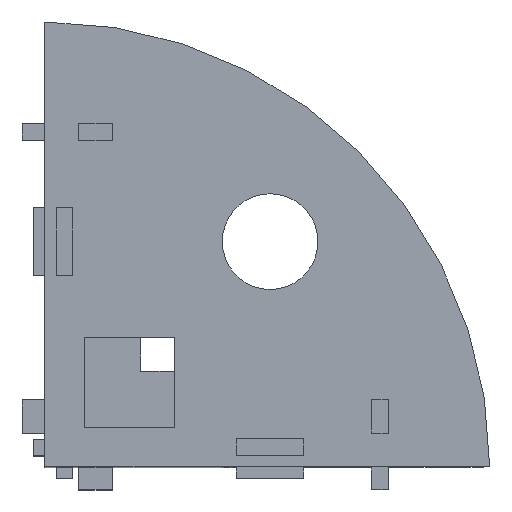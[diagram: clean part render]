
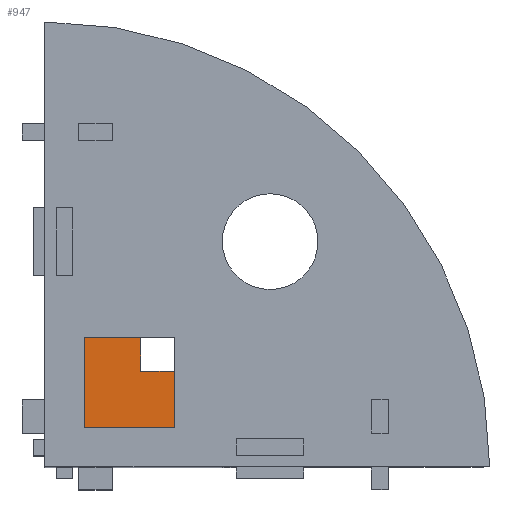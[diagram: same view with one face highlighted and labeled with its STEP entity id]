
A CAD part, top view. The second image highlights one B-rep face of the part: STEP entity #947.
In plain terms, the highlighted planar face has unit normal (0, 0, 1).
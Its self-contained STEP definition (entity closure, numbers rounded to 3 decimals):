
#7 = PLANE ( 'NONE',  #230 ) ;
#45 = ORIENTED_EDGE ( 'NONE', *, *, #2198, .T. ) ;
#101 = LINE ( 'NONE', #2562, #515 ) ;
#213 = CARTESIAN_POINT ( 'NONE',  ( 11.5, 8.5, -11.5 ) ) ;
#230 = AXIS2_PLACEMENT_3D ( 'NONE', #1674, #1392, #1099 ) ;
#242 = VERTEX_POINT ( 'NONE', #213 ) ;
#247 = VERTEX_POINT ( 'NONE', #2672 ) ;
#271 = DIRECTION ( 'NONE',  ( -1., 0., 0. ) ) ;
#278 = EDGE_CURVE ( 'NONE', #242, #247, #1217, .T. ) ;
#471 = VERTEX_POINT ( 'NONE', #667 ) ;
#515 = VECTOR ( 'NONE', #2293, 1000. ) ;
#559 = CARTESIAN_POINT ( 'NONE',  ( 3.5, 11.5, -11.5 ) ) ;
#575 = DIRECTION ( 'NONE',  ( 1., 0., 0. ) ) ;
#601 = CARTESIAN_POINT ( 'NONE',  ( 11.5, 3.5, -11.5 ) ) ;
#613 = EDGE_LOOP ( 'NONE', ( #1748, #2201, #1172, #756, #2185, #45 ) ) ;
#646 = VECTOR ( 'NONE', #1708, 1000. ) ;
#667 = CARTESIAN_POINT ( 'NONE',  ( 8.5, 11.5, -11.5 ) ) ;
#756 = ORIENTED_EDGE ( 'NONE', *, *, #1002, .T. ) ;
#830 = LINE ( 'NONE', #559, #2236 ) ;
#847 = CARTESIAN_POINT ( 'NONE',  ( 3.5, 3.5, -11.5 ) ) ;
#871 = CARTESIAN_POINT ( 'NONE',  ( 3.5, 3.5, -11.5 ) ) ;
#947 = ADVANCED_FACE ( 'NONE', ( #1771 ), #7, .T. ) ;
#1002 = EDGE_CURVE ( 'NONE', #2694, #2132, #2573, .T. ) ;
#1099 = DIRECTION ( 'NONE',  ( 1., 0., 0. ) ) ;
#1109 = EDGE_CURVE ( 'NONE', #471, #2694, #830, .T. ) ;
#1156 = EDGE_CURVE ( 'NONE', #2132, #2137, #1427, .T. ) ;
#1172 = ORIENTED_EDGE ( 'NONE', *, *, #1109, .T. ) ;
#1217 = LINE ( 'NONE', #1978, #646 ) ;
#1234 = VECTOR ( 'NONE', #2024, 1000. ) ;
#1392 = DIRECTION ( 'NONE',  ( 0., 0., 1. ) ) ;
#1399 = VECTOR ( 'NONE', #1774, 1000. ) ;
#1427 = LINE ( 'NONE', #847, #2340 ) ;
#1674 = CARTESIAN_POINT ( 'NONE',  ( 3.5, 3.5, -11.5 ) ) ;
#1708 = DIRECTION ( 'NONE',  ( -1., 0., 0. ) ) ;
#1748 = ORIENTED_EDGE ( 'NONE', *, *, #278, .T. ) ;
#1771 = FACE_OUTER_BOUND ( 'NONE', #613, .T. ) ;
#1774 = DIRECTION ( 'NONE',  ( 0., 1., 0. ) ) ;
#1978 = CARTESIAN_POINT ( 'NONE',  ( 8.5, 8.5, -11.5 ) ) ;
#2024 = DIRECTION ( 'NONE',  ( 0., -1., 0. ) ) ;
#2055 = CARTESIAN_POINT ( 'NONE',  ( 8.5, 38.651, -11.5 ) ) ;
#2132 = VERTEX_POINT ( 'NONE', #871 ) ;
#2137 = VERTEX_POINT ( 'NONE', #601 ) ;
#2185 = ORIENTED_EDGE ( 'NONE', *, *, #1156, .T. ) ;
#2198 = EDGE_CURVE ( 'NONE', #2137, #242, #101, .T. ) ;
#2201 = ORIENTED_EDGE ( 'NONE', *, *, #2461, .T. ) ;
#2236 = VECTOR ( 'NONE', #271, 1000. ) ;
#2293 = DIRECTION ( 'NONE',  ( 0., 1., 0. ) ) ;
#2302 = CARTESIAN_POINT ( 'NONE',  ( 3.5, 11.5, -11.5 ) ) ;
#2328 = LINE ( 'NONE', #2055, #1399 ) ;
#2340 = VECTOR ( 'NONE', #575, 1000. ) ;
#2461 = EDGE_CURVE ( 'NONE', #247, #471, #2328, .T. ) ;
#2562 = CARTESIAN_POINT ( 'NONE',  ( 11.5, 11.5, -11.5 ) ) ;
#2567 = CARTESIAN_POINT ( 'NONE',  ( 3.5, 11.5, -11.5 ) ) ;
#2573 = LINE ( 'NONE', #2302, #1234 ) ;
#2672 = CARTESIAN_POINT ( 'NONE',  ( 8.5, 8.5, -11.5 ) ) ;
#2694 = VERTEX_POINT ( 'NONE', #2567 ) ;
